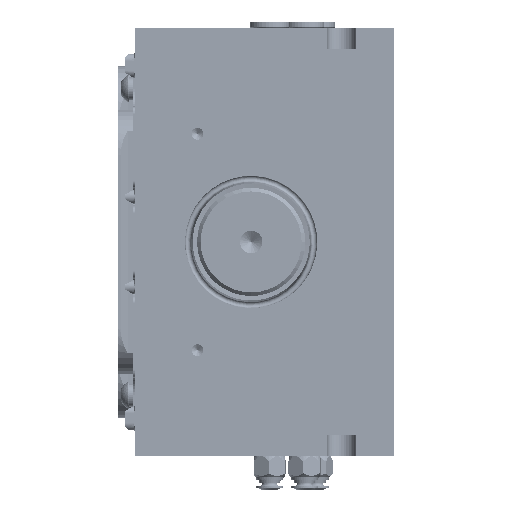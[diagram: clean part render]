
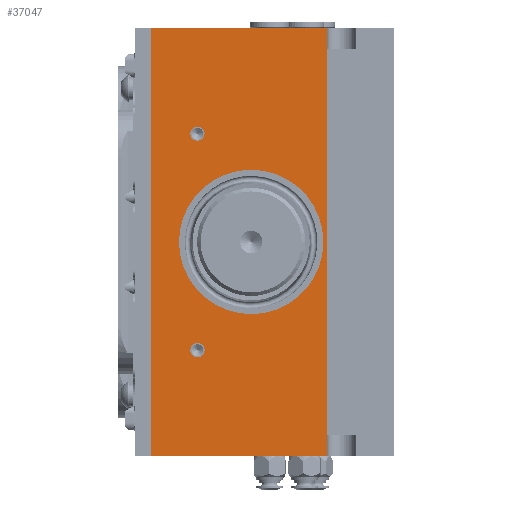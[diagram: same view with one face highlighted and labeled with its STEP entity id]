
A CAD part, left-side view. The second image highlights one B-rep face of the part: STEP entity #37047.
In plain terms, the highlighted planar face has unit normal (-1, 0, 0).
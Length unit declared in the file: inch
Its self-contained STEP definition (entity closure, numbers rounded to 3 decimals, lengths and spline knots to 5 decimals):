
#6168 = VERTEX_POINT ( 'NONE', #55600 ) ;
#6558 = FACE_BOUND ( 'NONE', #56237, .T. ) ;
#7285 = VERTEX_POINT ( 'NONE', #69466 ) ;
#7597 = CARTESIAN_POINT ( 'NONE',  ( -6.125, -0.37493, -1.59843 ) ) ;
#7876 = DIRECTION ( 'NONE',  ( -1., 0., 0. ) ) ;
#8098 = CARTESIAN_POINT ( 'NONE',  ( -6.125, -1.11941, 1.00075 ) ) ;
#8193 = CARTESIAN_POINT ( 'NONE',  ( -6.125, 0.10487, -2.96875 ) ) ;
#8636 = CIRCLE ( 'NONE', #73049, 0.09843 ) ;
#9438 = CIRCLE ( 'NONE', #60975, 0.09843 ) ;
#9792 = AXIS2_PLACEMENT_3D ( 'NONE', #20232, #44406, #25508 ) ;
#11435 = EDGE_CURVE ( 'NONE', #67654, #58521, #62600, .T. ) ;
#11925 = DIRECTION ( 'NONE',  ( -1., 0., 0. ) ) ;
#12148 = DIRECTION ( 'NONE',  ( 0., 0., 1. ) ) ;
#12237 = FACE_OUTER_BOUND ( 'NONE', #40035, .T. ) ;
#13520 = ORIENTED_EDGE ( 'NONE', *, *, #72178, .F. ) ;
#16578 = ORIENTED_EDGE ( 'NONE', *, *, #65920, .F. ) ;
#16868 = LINE ( 'NONE', #58371, #40192 ) ;
#16988 = VERTEX_POINT ( 'NONE', #50099 ) ;
#18531 = DIRECTION ( 'NONE',  ( 0., 0., 1. ) ) ;
#18846 = DIRECTION ( 'NONE',  ( 0., 1., 0. ) ) ;
#19965 = DIRECTION ( 'NONE',  ( 0., -1., 0. ) ) ;
#20232 = CARTESIAN_POINT ( 'NONE',  ( -6.125, -1.11941, 0. ) ) ;
#22827 = DIRECTION ( 'NONE',  ( -1., 0., 0. ) ) ;
#23530 = ORIENTED_EDGE ( 'NONE', *, *, #47533, .F. ) ;
#23977 = CIRCLE ( 'NONE', #49710, 0.09843 ) ;
#25070 = AXIS2_PLACEMENT_3D ( 'NONE', #30411, #54958, #44083 ) ;
#25508 = DIRECTION ( 'NONE',  ( 0., 0., 1. ) ) ;
#26231 = ORIENTED_EDGE ( 'NONE', *, *, #31476, .T. ) ;
#30411 = CARTESIAN_POINT ( 'NONE',  ( -6.125, 0.11987, -0.73794 ) ) ;
#31003 = VERTEX_POINT ( 'NONE', #77485 ) ;
#31269 = LINE ( 'NONE', #8193, #57352 ) ;
#31476 = EDGE_CURVE ( 'NONE', #47959, #31003, #62313, .T. ) ;
#32941 = CARTESIAN_POINT ( 'NONE',  ( -6.125, -2.16868, 2.96875 ) ) ;
#33828 = DIRECTION ( 'NONE',  ( 0., 0., 1. ) ) ;
#35944 = ORIENTED_EDGE ( 'NONE', *, *, #37843, .F. ) ;
#36041 = CIRCLE ( 'NONE', #42485, 1.00075 ) ;
#36559 = EDGE_CURVE ( 'NONE', #7285, #6168, #9438, .T. ) ;
#36854 = PLANE ( 'NONE',  #25070 ) ;
#37022 = ORIENTED_EDGE ( 'NONE', *, *, #75886, .F. ) ;
#37047 = ADVANCED_FACE ( 'NONE', ( #12237, #56568, #6558, #43306 ), #36854, .T. ) ;
#37843 = EDGE_CURVE ( 'NONE', #56418, #31003, #37871, .T. ) ;
#37871 = LINE ( 'NONE', #73693, #71430 ) ;
#39490 = VERTEX_POINT ( 'NONE', #71568 ) ;
#39679 = ORIENTED_EDGE ( 'NONE', *, *, #36559, .F. ) ;
#39735 = EDGE_CURVE ( 'NONE', #56418, #39490, #31269, .T. ) ;
#40035 = EDGE_LOOP ( 'NONE', ( #26231, #35944, #75175, #37022 ) ) ;
#40192 = VECTOR ( 'NONE', #47492, 39.37008 ) ;
#41410 = CARTESIAN_POINT ( 'NONE',  ( -6.125, -0.37493, -1.5 ) ) ;
#42485 = AXIS2_PLACEMENT_3D ( 'NONE', #77975, #22827, #65879 ) ;
#43306 = FACE_BOUND ( 'NONE', #71202, .T. ) ;
#43725 = ORIENTED_EDGE ( 'NONE', *, *, #11435, .F. ) ;
#44083 = DIRECTION ( 'NONE',  ( 0., 0., 1. ) ) ;
#44406 = DIRECTION ( 'NONE',  ( -1., 0., 0. ) ) ;
#45793 = DIRECTION ( 'NONE',  ( 0., 0., 1. ) ) ;
#47492 = DIRECTION ( 'NONE',  ( 0., 0., -1. ) ) ;
#47533 = EDGE_CURVE ( 'NONE', #55238, #16988, #23977, .T. ) ;
#47959 = VERTEX_POINT ( 'NONE', #32941 ) ;
#48788 = VECTOR ( 'NONE', #18846, 39.37008 ) ;
#49710 = AXIS2_PLACEMENT_3D ( 'NONE', #52355, #77305, #33828 ) ;
#50099 = CARTESIAN_POINT ( 'NONE',  ( -6.125, -0.37493, -1.40157 ) ) ;
#52355 = CARTESIAN_POINT ( 'NONE',  ( -6.125, -0.37493, -1.5 ) ) ;
#53462 = DIRECTION ( 'NONE',  ( 0., 0., 1. ) ) ;
#54675 = CARTESIAN_POINT ( 'NONE',  ( -6.125, -3.09368, 2.96875 ) ) ;
#54958 = DIRECTION ( 'NONE',  ( -1., 0., 0. ) ) ;
#55238 = VERTEX_POINT ( 'NONE', #7597 ) ;
#55600 = CARTESIAN_POINT ( 'NONE',  ( -6.125, -0.37493, 1.59843 ) ) ;
#56237 = EDGE_LOOP ( 'NONE', ( #16578, #39679 ) ) ;
#56418 = VERTEX_POINT ( 'NONE', #73032 ) ;
#56568 = FACE_BOUND ( 'NONE', #76346, .T. ) ;
#57352 = VECTOR ( 'NONE', #19965, 39.37008 ) ;
#58371 = CARTESIAN_POINT ( 'NONE',  ( -6.125, -2.16868, 2.96875 ) ) ;
#58521 = VERTEX_POINT ( 'NONE', #71614 ) ;
#58772 = ORIENTED_EDGE ( 'NONE', *, *, #68204, .F. ) ;
#60975 = AXIS2_PLACEMENT_3D ( 'NONE', #67137, #11925, #53462 ) ;
#62313 = LINE ( 'NONE', #54675, #48788 ) ;
#62600 = CIRCLE ( 'NONE', #9792, 1.00075 ) ;
#62730 = CARTESIAN_POINT ( 'NONE',  ( -6.125, -0.37493, 1.5 ) ) ;
#65879 = DIRECTION ( 'NONE',  ( 0., 0., 1. ) ) ;
#65920 = EDGE_CURVE ( 'NONE', #6168, #7285, #77959, .T. ) ;
#67137 = CARTESIAN_POINT ( 'NONE',  ( -6.125, -0.37493, 1.5 ) ) ;
#67654 = VERTEX_POINT ( 'NONE', #8098 ) ;
#68204 = EDGE_CURVE ( 'NONE', #16988, #55238, #8636, .T. ) ;
#69466 = CARTESIAN_POINT ( 'NONE',  ( -6.125, -0.37493, 1.40157 ) ) ;
#71202 = EDGE_LOOP ( 'NONE', ( #43725, #13520 ) ) ;
#71430 = VECTOR ( 'NONE', #18531, 39.37008 ) ;
#71526 = AXIS2_PLACEMENT_3D ( 'NONE', #62730, #7876, #45793 ) ;
#71568 = CARTESIAN_POINT ( 'NONE',  ( -6.125, -2.16868, -2.96875 ) ) ;
#71614 = CARTESIAN_POINT ( 'NONE',  ( -6.125, -1.11941, -1.00075 ) ) ;
#72178 = EDGE_CURVE ( 'NONE', #58521, #67654, #36041, .T. ) ;
#72184 = DIRECTION ( 'NONE',  ( -1., 0., 0. ) ) ;
#73032 = CARTESIAN_POINT ( 'NONE',  ( -6.125, 0.26235, -2.96875 ) ) ;
#73049 = AXIS2_PLACEMENT_3D ( 'NONE', #41410, #72184, #12148 ) ;
#73693 = CARTESIAN_POINT ( 'NONE',  ( -6.125, 0.26235, -2.96875 ) ) ;
#75175 = ORIENTED_EDGE ( 'NONE', *, *, #39735, .T. ) ;
#75886 = EDGE_CURVE ( 'NONE', #47959, #39490, #16868, .T. ) ;
#76346 = EDGE_LOOP ( 'NONE', ( #58772, #23530 ) ) ;
#77305 = DIRECTION ( 'NONE',  ( -1., 0., 0. ) ) ;
#77485 = CARTESIAN_POINT ( 'NONE',  ( -6.125, 0.26235, 2.96875 ) ) ;
#77959 = CIRCLE ( 'NONE', #71526, 0.09843 ) ;
#77975 = CARTESIAN_POINT ( 'NONE',  ( -6.125, -1.11941, 0. ) ) ;
